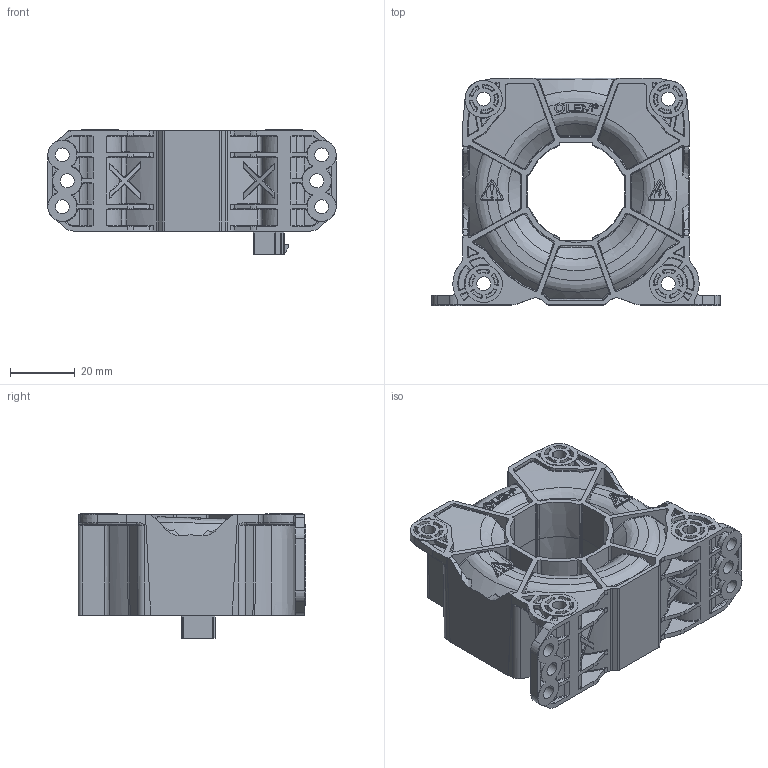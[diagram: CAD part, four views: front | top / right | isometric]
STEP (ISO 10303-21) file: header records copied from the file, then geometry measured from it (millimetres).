
FILE_DESCRIPTION(('Creo Elements/Direct Modeling STEP Export'),'2;1');
FILE_NAME('Blackbox_LF_510_D.stp','2014-09-25T12:43:29',(''),(''),'Creo Elements/Direct Modeling STEP processor for AP214 (Solid Model)','Creo Elements/Direct Modeling 17.0C 05-Feb-2011 (C) Parametric Technology GmbH','');
FILE_SCHEMA(('AUTOMOTIVE_DESIGN { 1 0 10303 214 1 1 1 1 }'));
Products named in the file (1): LF_510_OUTLINE_D
Bounding box: 89 x 70.3 x 38.5 mm (x, y, z)
Volume: 102511.4 mm3; surface area: 26129.9 mm2
Topology: 1 solids, 1 shells, 2101 faces, 5313 edges, 3270 vertices
Faces by surface type: bspline 1064, plane 575, cylinder 266, cone 104, torus 76, extrusion 9, sphere 7
Entity records: 141390 total; most frequent: CARTESIAN_POINT 102030, ORIENTED_EDGE 10608, EDGE_CURVE 5304, DIRECTION 4280, VERTEX_POINT 3270, B_SPLINE_CURVE_WITH_KNOTS 2506, EDGE_LOOP 2188, FACE_OUTER_BOUND 2101
